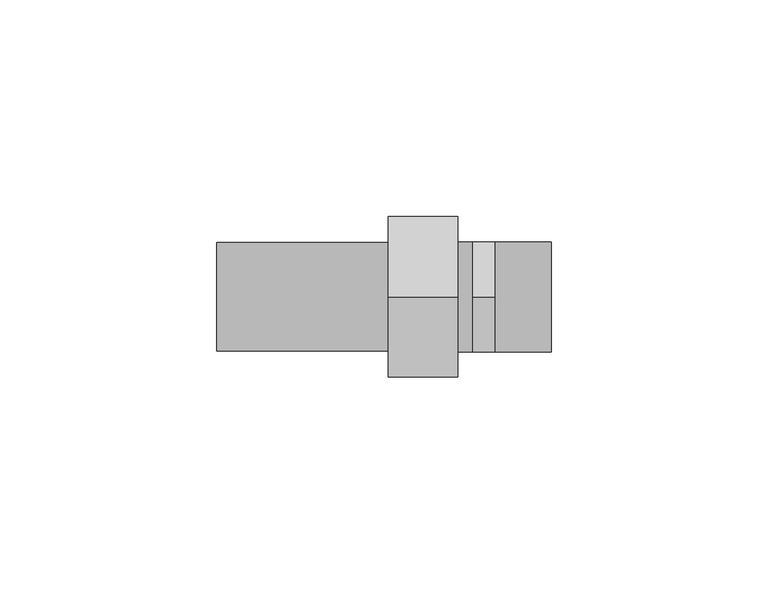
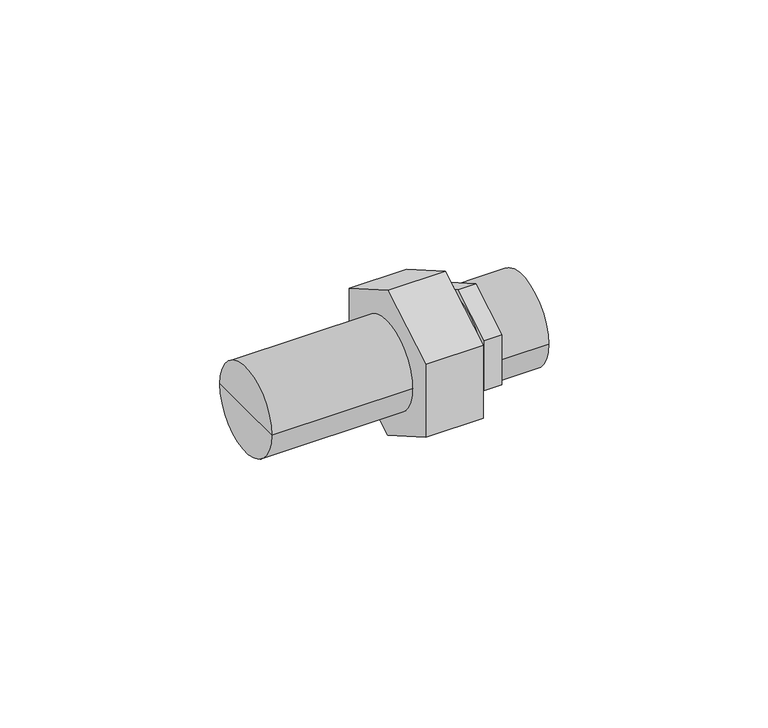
"""IFC4 building model written with IfcOpenShell, lengths in millimetres: pipe fitting geometry, KAN-therm PP śrubunek 1 : KAN-therm PP śrubunek 1."""

from ifc_helpers import new_model, si_unit, frame, origin, place, context, project, spatial, polyline, circle_curve, outline, extrude, source, transform, mapped, element, save
from ifc_brep_helpers import plane_surface, cylinder_surface, advanced_brep


def pipe_fitting_021c3819(model_context):
    return source(origin(), model_context, "Body", "SolidModel", [
        extrude(outline(polyline([(0.0, -14.6646968), (-12.7, -7.3323484), (-12.7, 7.3323484), (0.0, 14.6646968), (12.7, 7.3323484), (12.7, -7.3323484), (0.0, -14.6646968)])), frame((43.0, 0.0, 0.0), z_axis=(1.0, 0.0, 0.0), x_axis=(0.0, 1.0, 0.0)), (0.0, 0.0, 1.0), 5.0),
        extrude(outline(polyline([(0.0, -21.36196), (-18.5, -10.68098), (-18.5, 10.68098), (0.0, 21.36196), (18.5, 10.68098), (18.5, -10.68098), (0.0, -21.36196)])), frame((23.5, 0.0, 0.0), z_axis=(1.0, 0.0, 0.0), x_axis=(0.0, 1.0, 0.0)), (0.0, 0.0, 1.0), 16.0),
        advanced_brep(
        [(-16.0, 0.0, 0.0), (-16.0, 12.5, 0.0), (-16.0, -12.5, 0.0), (23.5, -12.5, 0.0), (23.5, 12.5, 0.0), (23.5, 0.0, 0.0)],
        [
            (0, 1),
            (1, 2, circle_curve(frame((-16.0, 0.0, 0.0), z_axis=(-1.0, 0.0, 0.0), x_axis=(0.0, 1.0, 0.0)), 12.5)),
            (2, 0),
            (2, 1, circle_curve(frame((-16.0, 0.0, 0.0), z_axis=(-1.0, 0.0, 0.0), x_axis=(0.0, 1.0, 0.0)), 12.5)),
            (3, 4, circle_curve(frame((23.5, 0.0, 0.0), z_axis=(1.0, 0.0, 0.0), x_axis=(0.0, 1.0, 0.0)), 12.5)),
            (4, 5),
            (5, 3),
            (4, 3, circle_curve(frame((23.5, 0.0, 0.0), z_axis=(1.0, 0.0, 0.0), x_axis=(0.0, 1.0, 0.0)), 12.5)),
            (1, 4),
            (3, 2),
        ],
        [
            plane_surface(frame((-16.0, 0.0, 0.0), z_axis=(-1.0, 0.0, 0.0), x_axis=(0.0, 1.0, 0.0))),
            plane_surface(frame((23.5, 0.0, 0.0), z_axis=(1.0, 0.0, 0.0), x_axis=(0.0, 1.0, 0.0))),
            cylinder_surface(frame((2009.3, 0.0, 0.0), z_axis=(-1.0, 0.0, 0.0), x_axis=(0.0, 1.0, 0.0)), 12.5),
        ],
        [
            (0, [[1, 2, 3]]),
            (0, [[-3, 4, -1]]),
            (1, [[5, 6, 7]]),
            (1, [[8, -7, -6]]),
            (2, [[-2, 9, -5, 10]]),
            (2, [[-4, -10, -8, -9]]),
        ],
    ),
        advanced_brep(
        [(61.0, -12.7, 0.0), (61.0, 12.7, 0.0), (61.0, 0.0, 0.0), (39.5, -12.7, 0.0), (39.5, 12.7, 0.0), (39.5, 0.0, 0.0)],
        [
            (0, 1, circle_curve(frame((61.0, 0.0, 0.0), z_axis=(1.0, 0.0, 0.0), x_axis=(0.0, 1.0, 0.0)), 12.7)),
            (1, 2),
            (2, 0),
            (1, 0, circle_curve(frame((61.0, 0.0, 0.0), z_axis=(1.0, 0.0, 0.0), x_axis=(0.0, 1.0, 0.0)), 12.7)),
            (3, 4, circle_curve(frame((39.5, 0.0, 0.0), z_axis=(1.0, 0.0, 0.0), x_axis=(0.0, 1.0, 0.0)), 12.7)),
            (4, 1),
            (0, 3),
            (4, 3, circle_curve(frame((39.5, 0.0, 0.0), z_axis=(1.0, 0.0, 0.0), x_axis=(0.0, 1.0, 0.0)), 12.7)),
            (5, 4),
            (3, 5),
        ],
        [
            plane_surface(frame((61.0, 0.0, 0.0), z_axis=(1.0, 0.0, 0.0), x_axis=(0.0, 1.0, 0.0))),
            cylinder_surface(frame((1374.742668, 0.0, 0.0), z_axis=(-1.0, 0.0, 0.0), x_axis=(0.0, 1.0, 0.0)), 12.7),
            plane_surface(frame((39.5, 0.0, 0.0), z_axis=(-1.0, 0.0, 0.0), x_axis=(0.0, 1.0, 0.0))),
        ],
        [
            (0, [[1, 2, 3]]),
            (0, [[4, -3, -2]]),
            (1, [[5, 6, -1, 7]]),
            (1, [[8, -7, -4, -6]]),
            (2, [[9, -5, 10]]),
            (2, [[-10, -8, -9]]),
        ],
    ),
    ])


if __name__ == "__main__":
    model = new_model("IFC4")
    model_context = context("Model", 3, world=origin())
    ifc_project = project(units=[si_unit("LENGTHUNIT", "METRE", prefix="MILLI")], contexts=[model_context])
    site = spatial("IfcSite", under=ifc_project)
    building = spatial("IfcBuilding", under=site)
    placement = place(None, origin())
    pipe_fitting_shape = pipe_fitting_021c3819(model_context)
    element("IfcPipeFitting", 1, ObjectType="KAN-therm PP śrubunek 1 : KAN-therm PP śrubunek 1", at=placement, inside=building, context=model_context, shape_type="MappedRepresentation", body=[
        mapped(pipe_fitting_shape, transform((0.0, 0.0, 0.0), x_axis=(1.0, 0.0, 0.0), y_axis=(0.0, 1.0, 0.0), z_axis=(0.0, 0.0, 1.0))),
    ])
    save(model, "model.ifc")
